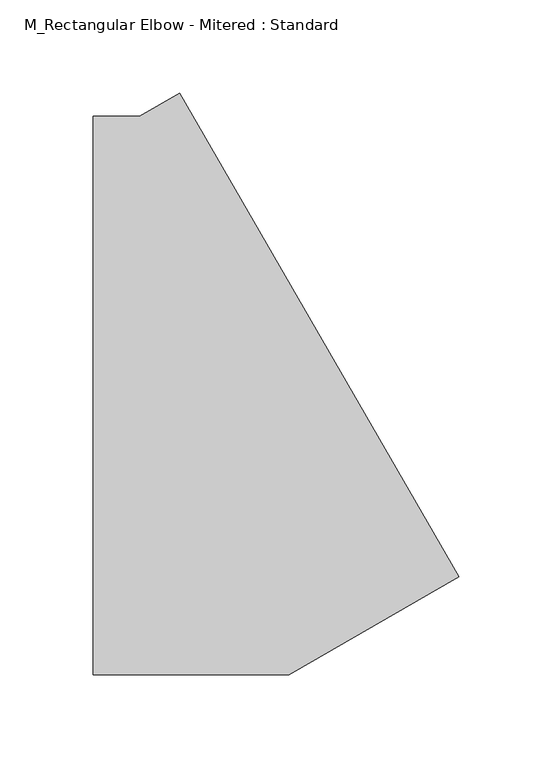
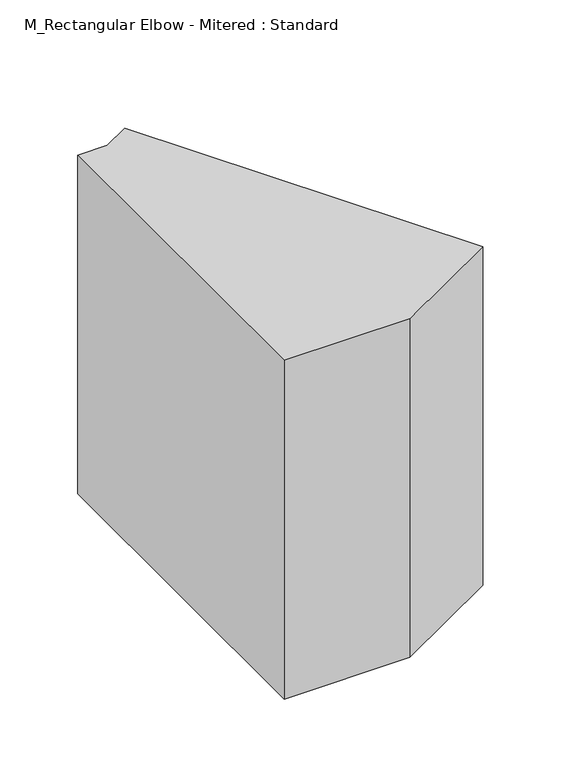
"""IFC4 building model written with IfcOpenShell, lengths in millimetres: duct fitting geometry, M_Rectangular Elbow - Mitered : Standard."""

from ifc_helpers import new_model, si_unit, frame, origin, place, context, project, spatial, polyline, outline, extrude, source, transform, mapped, element, save


def m_rectangular_elbow_mitered_standard_8b3b5101(model_context):
    return source(origin(), model_context, "Body", "SweptSolid", [
        extrude(outline(polyline([(-65.1923789, -150.0), (-65.1923789, 150.0), (-40.1923789, 150.0), (-18.5417438, 162.5), (131.4582562, -97.3076211), (40.1923789, -150.0), (-65.1923789, -150.0)])), frame((0.0, 0.0, -150.0), z_axis=(0.0, 0.0, 1.0), x_axis=(1.0, 0.0, 0.0)), (0.0, 0.0, 1.0), 300.0),
        extrude(outline(polyline([(-65.1923789, -150.0), (-65.1923789, 150.0), (-40.1923789, 150.0), (-18.5417438, 162.5), (131.4582562, -97.3076211), (40.1923789, -150.0), (-65.1923789, -150.0)])), frame((0.0, 0.0, -150.0), z_axis=(0.0, 0.0, 1.0), x_axis=(1.0, 0.0, 0.0)), (0.0, 0.0, 1.0), 300.0),
        extrude(outline(polyline([(-65.1923789, -150.0), (-65.1923789, 150.0), (-40.1923789, 150.0), (-18.5417438, 162.5), (131.4582562, -97.3076211), (40.1923789, -150.0), (-65.1923789, -150.0)])), frame((0.0, 0.0, -150.0), z_axis=(0.0, 0.0, 1.0), x_axis=(1.0, 0.0, 0.0)), (0.0, 0.0, 1.0), 300.0),
    ])


if __name__ == "__main__":
    model = new_model("IFC4")
    model_context = context("Model", 3, world=origin())
    ifc_project = project(units=[si_unit("LENGTHUNIT", "METRE", prefix="MILLI")], contexts=[model_context])
    site = spatial("IfcSite", under=ifc_project)
    building = spatial("IfcBuilding", under=site)
    placement = place(None, origin())
    m_rectangular_elbow_mitered_standard_shape = m_rectangular_elbow_mitered_standard_8b3b5101(model_context)
    element("IfcDuctFitting", 1, ObjectType="M_Rectangular Elbow - Mitered : Standard", at=placement, inside=building, context=model_context, shape_type="MappedRepresentation", body=[
        mapped(m_rectangular_elbow_mitered_standard_shape, transform((0.0, 0.0, 0.0), x_axis=(1.0, 0.0, 0.0), y_axis=(0.0, 1.0, 0.0), z_axis=(0.0, 0.0, 1.0))),
    ])
    save(model, "model.ifc")
